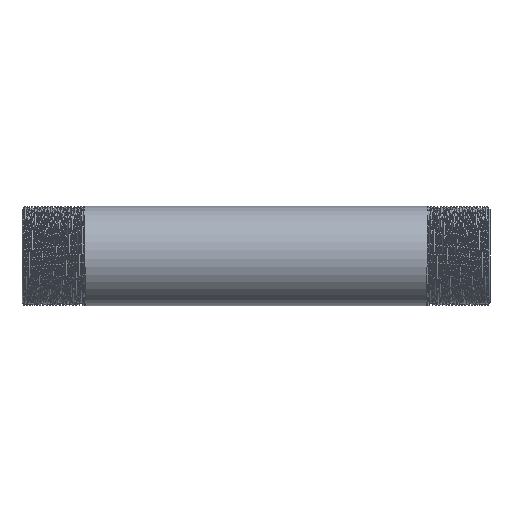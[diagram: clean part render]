
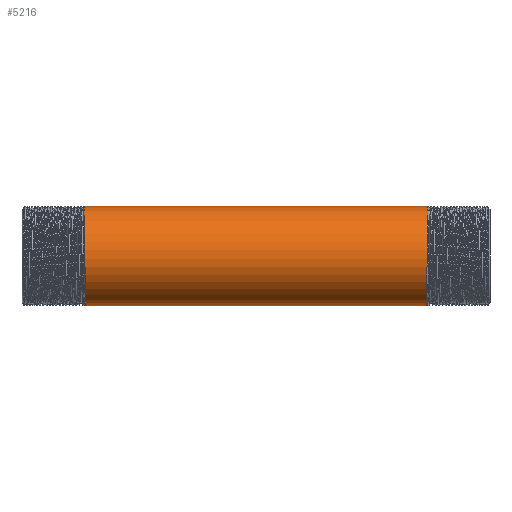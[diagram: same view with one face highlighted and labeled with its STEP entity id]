
A CAD part, front view. The second image highlights one B-rep face of the part: STEP entity #5216.
In plain terms, the highlighted cylindrical face has radius 10.65 mm (diameter 21.3 mm), a partial arc.
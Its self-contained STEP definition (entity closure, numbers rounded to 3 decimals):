
#127 = CARTESIAN_POINT ( 'NONE',  ( 36.388, 0., -10.65 ) ) ;
#134 = CARTESIAN_POINT ( 'NONE',  ( -149.494, 0., 0. ) ) ;
#267 = CARTESIAN_POINT ( 'NONE',  ( 36.738, 0., 10.65 ) ) ;
#300 = VERTEX_POINT ( 'NONE', #1803 ) ;
#830 = CARTESIAN_POINT ( 'NONE',  ( -36.504, -9.223, -5.325 ) ) ;
#1020 = VERTEX_POINT ( 'NONE', #2415 ) ;
#1682 = EDGE_CURVE ( 'NONE', #4486, #8359, #6214, .T. ) ;
#1803 = CARTESIAN_POINT ( 'NONE',  ( 36.388, 0., -10.65 ) ) ;
#1827 = VECTOR ( 'NONE', #11737, 1000. ) ;
#2109 = CARTESIAN_POINT ( 'NONE',  ( -149.494, 0., -10.65 ) ) ;
#2300 = CARTESIAN_POINT ( 'NONE',  ( 36.504, -9.223, -5.325 ) ) ;
#2415 = CARTESIAN_POINT ( 'NONE',  ( -36.388, 0., -10.65 ) ) ;
#2828 = CARTESIAN_POINT ( 'NONE',  ( 36.738, 0., 10.65 ) ) ;
#2891 = ORIENTED_EDGE ( 'NONE', *, *, #3163, .F. ) ;
#2979 = LINE ( 'NONE', #2109, #3364 ) ;
#3163 = EDGE_CURVE ( 'NONE', #1020, #8359, #11905, .T. ) ;
#3364 = VECTOR ( 'NONE', #4341, 1000. ) ;
#3560 =( BOUNDED_CURVE ( )  B_SPLINE_CURVE ( 2, ( #127, #7625, #2300, #12282, #7769, #10129, #267 ),
 .UNSPECIFIED., .F., .F. ) 
 B_SPLINE_CURVE_WITH_KNOTS ( ( 3, 2, 2, 3 ),
 ( 0., 0.006, 0.013, 0.019 ),
 .UNSPECIFIED. ) 
 CURVE ( )  GEOMETRIC_REPRESENTATION_ITEM ( )  RATIONAL_B_SPLINE_CURVE ( ( 1., 0.866, 1., 0.866, 1., 0.866, 1. ) ) 
 REPRESENTATION_ITEM ( '' )  );
#4341 = DIRECTION ( 'NONE',  ( -1., 0., 0. ) ) ;
#4486 = VERTEX_POINT ( 'NONE', #2828 ) ;
#4676 = ORIENTED_EDGE ( 'NONE', *, *, #7904, .T. ) ;
#4975 = AXIS2_PLACEMENT_3D ( 'NONE', #134, #12357, #9845 ) ;
#5156 = CARTESIAN_POINT ( 'NONE',  ( -36.388, 0., -10.65 ) ) ;
#5216 = ADVANCED_FACE ( 'NONE', ( #7702 ), #6762, .T. ) ;
#6214 = LINE ( 'NONE', #9437, #1827 ) ;
#6454 = CARTESIAN_POINT ( 'NONE',  ( -36.738, 0., 10.65 ) ) ;
#6597 = CARTESIAN_POINT ( 'NONE',  ( -36.679, -6.149, 10.65 ) ) ;
#6762 = CYLINDRICAL_SURFACE ( 'NONE', #4975, 10.65 ) ;
#7426 = EDGE_LOOP ( 'NONE', ( #12476, #4676, #12543, #2891 ) ) ;
#7625 = CARTESIAN_POINT ( 'NONE',  ( 36.446, -6.149, -10.65 ) ) ;
#7702 = FACE_OUTER_BOUND ( 'NONE', #7426, .T. ) ;
#7769 = CARTESIAN_POINT ( 'NONE',  ( 36.621, -9.223, 5.325 ) ) ;
#7904 = EDGE_CURVE ( 'NONE', #300, #4486, #3560, .T. ) ;
#8359 = VERTEX_POINT ( 'NONE', #8962 ) ;
#8747 = CARTESIAN_POINT ( 'NONE',  ( -36.563, -12.298, 0. ) ) ;
#8962 = CARTESIAN_POINT ( 'NONE',  ( -36.738, 0., 10.65 ) ) ;
#9437 = CARTESIAN_POINT ( 'NONE',  ( -149.494, 0., 10.65 ) ) ;
#9845 = DIRECTION ( 'NONE',  ( 0., 0., 1. ) ) ;
#10129 = CARTESIAN_POINT ( 'NONE',  ( 36.679, -6.149, 10.65 ) ) ;
#10623 = CARTESIAN_POINT ( 'NONE',  ( -36.446, -6.149, -10.65 ) ) ;
#11737 = DIRECTION ( 'NONE',  ( -1., 0., 0. ) ) ;
#11905 =( BOUNDED_CURVE ( )  B_SPLINE_CURVE ( 2, ( #5156, #10623, #830, #8747, #13120, #6597, #6454 ),
 .UNSPECIFIED., .F., .F. ) 
 B_SPLINE_CURVE_WITH_KNOTS ( ( 3, 2, 2, 3 ),
 ( 0., 0.006, 0.013, 0.019 ),
 .UNSPECIFIED. ) 
 CURVE ( )  GEOMETRIC_REPRESENTATION_ITEM ( )  RATIONAL_B_SPLINE_CURVE ( ( 1., 0.866, 1., 0.866, 1., 0.866, 1. ) ) 
 REPRESENTATION_ITEM ( '' )  );
#11983 = EDGE_CURVE ( 'NONE', #300, #1020, #2979, .T. ) ;
#12282 = CARTESIAN_POINT ( 'NONE',  ( 36.563, -12.298, 0. ) ) ;
#12357 = DIRECTION ( 'NONE',  ( -1., 0., 0. ) ) ;
#12476 = ORIENTED_EDGE ( 'NONE', *, *, #11983, .F. ) ;
#12543 = ORIENTED_EDGE ( 'NONE', *, *, #1682, .T. ) ;
#13120 = CARTESIAN_POINT ( 'NONE',  ( -36.621, -9.223, 5.325 ) ) ;
